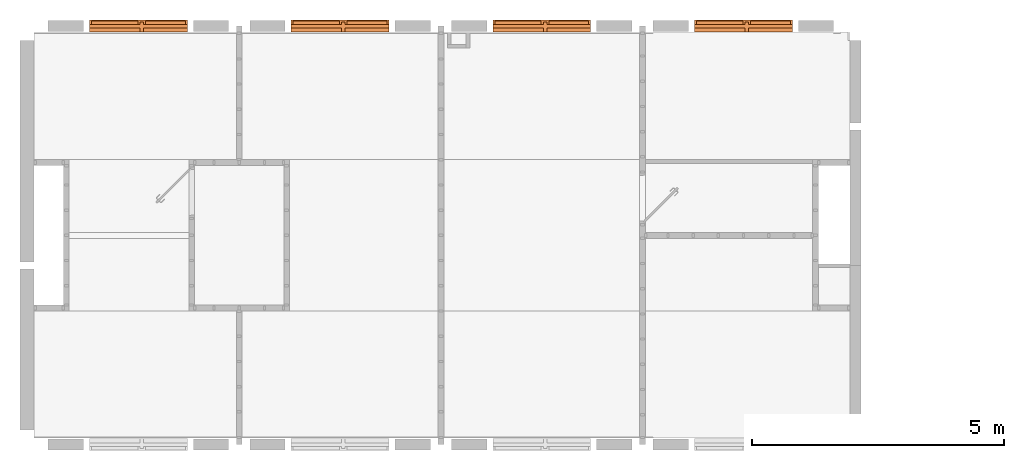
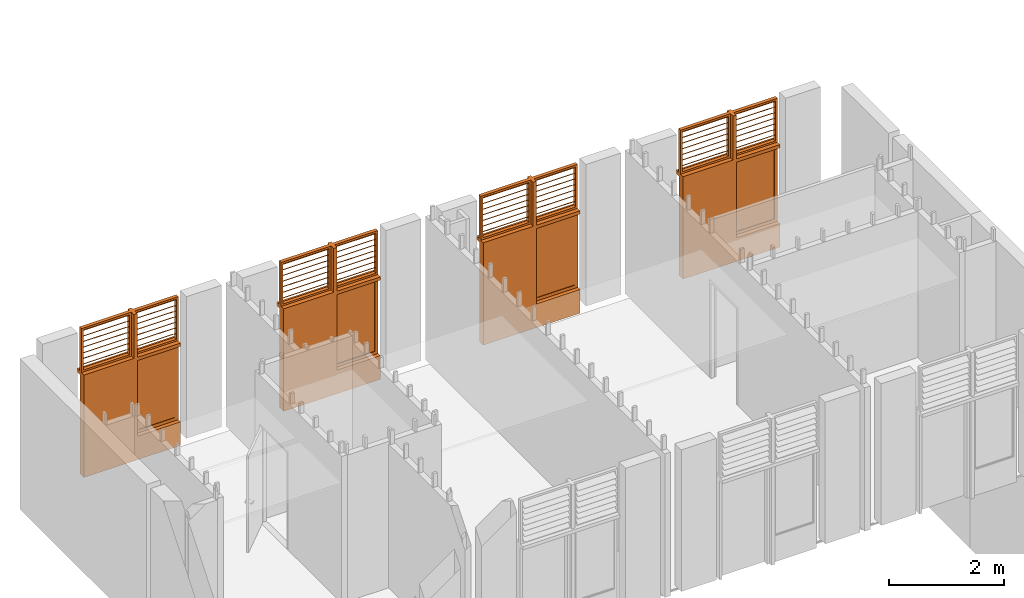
# One storey, part 16 of 20: 4 proxies.
"""IFC2X3 building model written with IfcOpenShell, lengths in metres."""

from ifc_helpers import new_model, entity, si_unit, converted_unit, derived_unit, direction, frame, origin, place, context, subcontext, project, spatial, faceted_brep, source, transform, mapped, material, material_list, type_object, type_shapes, element, save


model = new_model("IFC2X3")

# Units and contexts
model_context = context("Model", 3, precision=1e-05, world=origin(), true_north=direction((6.12303176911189e-17, 1.0)))
body_context = subcontext(model_context, "Body", "Model", "MODEL_VIEW")
ifc_project = project(units=[si_unit("LENGTHUNIT", "METRE"), si_unit("AREAUNIT", "SQUARE_METRE"), si_unit("VOLUMEUNIT", "CUBIC_METRE"), converted_unit("PLANEANGLEUNIT", "DEGREE", entity("IfcRatioMeasure", 0.0174532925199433), si_unit("PLANEANGLEUNIT", "RADIAN"), dimensions=[0, 0, 0, 0, 0, 0, 0]), si_unit("MASSUNIT", "GRAM", prefix="KILO"), derived_unit("MASSDENSITYUNIT", [(si_unit("MASSUNIT", "GRAM", prefix="KILO"), 1), (si_unit("LENGTHUNIT", "METRE"), -3)]), si_unit("TIMEUNIT", "SECOND"), si_unit("FREQUENCYUNIT", "HERTZ"), si_unit("THERMODYNAMICTEMPERATUREUNIT", "DEGREE_CELSIUS"), derived_unit("THERMALTRANSMITTANCEUNIT", [(si_unit("MASSUNIT", "GRAM", prefix="KILO"), 1), (si_unit("THERMODYNAMICTEMPERATUREUNIT", "KELVIN"), -1), (si_unit("TIMEUNIT", "SECOND"), -3)]), derived_unit("VOLUMETRICFLOWRATEUNIT", [(si_unit("LENGTHUNIT", "METRE"), 3), (si_unit("TIMEUNIT", "SECOND"), -1)]), si_unit("ELECTRICCURRENTUNIT", "AMPERE"), si_unit("ELECTRICVOLTAGEUNIT", "VOLT"), si_unit("POWERUNIT", "WATT"), si_unit("FORCEUNIT", "NEWTON", prefix="KILO"), si_unit("ILLUMINANCEUNIT", "LUX"), si_unit("LUMINOUSFLUXUNIT", "LUMEN"), si_unit("LUMINOUSINTENSITYUNIT", "CANDELA"), derived_unit("USERDEFINED", [(si_unit("MASSUNIT", "GRAM", prefix="KILO"), -1), (si_unit("LENGTHUNIT", "METRE"), -2), (si_unit("TIMEUNIT", "SECOND"), 3), (si_unit("LUMINOUSFLUXUNIT", "LUMEN"), 1)]), derived_unit("LINEARVELOCITYUNIT", [(si_unit("LENGTHUNIT", "METRE"), 1), (si_unit("TIMEUNIT", "SECOND"), -1)]), si_unit("PRESSUREUNIT", "PASCAL"), derived_unit("USERDEFINED", [(si_unit("LENGTHUNIT", "METRE"), -2), (si_unit("MASSUNIT", "GRAM", prefix="KILO"), 1), (si_unit("TIMEUNIT", "SECOND"), -2)])], contexts=[model_context])

# Site, building, storey
site_placement = place(None, origin())
site = spatial("IfcSite", under=ifc_project, at=site_placement, Name="Surface", CompositionType="ELEMENT")
building_placement = place(site_placement, origin())
building = spatial("IfcBuilding", under=site, at=building_placement, Name="ExPREF", CompositionType="ELEMENT")
storey_placement = place(building_placement, frame((0.0, 0.0, 4.27)))
storey = spatial("IfcBuildingStorey", under=building, at=storey_placement, Name="R+1", CompositionType="ELEMENT", Elevation=4.27)

# Proxies
ifc_material_1 = material(Name="AA-Aluminium")
ifc_material_2 = material(Name="AA-vitrage")
ifc_material_3 = material(Name="AA-bois menuiseries")
ifc_material_list_1 = material_list([ifc_material_1, ifc_material_2, ifc_material_3])
ifc_material_list_2 = material_list([ifc_material_1, ifc_material_2, ifc_material_3])
building_element_proxy_type = type_object("IfcBuildingElementProxyType", Name="R+2 porte + fenetre", PredefinedType="NOTDEFINED", material=ifc_material_list_2)
shared_shape = source(origin(), body_context, "Body", "Brep", [
    faceted_brep([(0.139999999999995, 0.113917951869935, 3.02140538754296), (0.139999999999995, 0.0970656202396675, 3.03320551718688), (0.139999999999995, 0.101483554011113, 3.03951498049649), (0.139999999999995, 0.11833588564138, 3.02771485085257), (0.930000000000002, 0.113917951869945, 3.02140538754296), (0.930000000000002, 0.118335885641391, 3.02771485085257), (0.930000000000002, 0.101483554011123, 3.03951498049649), (0.930000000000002, 0.0970656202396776, 3.03320551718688)], [[[0, 1, 2, 3]], [[4, 5, 6, 7]], [[1, 0, 4, 7]], [[2, 1, 7, 6]], [[3, 2, 6, 5]], [[0, 3, 5, 4]]]),
    faceted_brep([(0.139999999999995, 0.114720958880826, 3.02255220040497), (0.139999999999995, 0.117588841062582, 3.02664796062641), (0.139999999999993, 0.223609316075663, 2.95241162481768), (0.139999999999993, 0.220741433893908, 2.94831586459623), (0.930000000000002, 0.114720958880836, 3.02255220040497), (0.93, 0.220741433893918, 2.94831586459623), (0.93, 0.223609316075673, 2.95241162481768), (0.930000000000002, 0.117588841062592, 3.02664796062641)], [[[0, 1, 2, 3]], [[4, 5, 6, 7]], [[1, 0, 4, 7]], [[2, 1, 7, 6]], [[3, 2, 6, 5]], [[0, 3, 5, 4]]]),
    faceted_brep([(-0.930000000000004, 0.113917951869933, 3.02140538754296), (-0.930000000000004, 0.097065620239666, 3.03320551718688), (-0.930000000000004, 0.101483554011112, 3.03951498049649), (-0.930000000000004, 0.118335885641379, 3.02771485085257), (-0.00999999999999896, 0.113917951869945, 3.02140538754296), (-0.00999999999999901, 0.118335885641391, 3.02771485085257), (-0.0099999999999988, 0.101483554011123, 3.03951498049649), (-0.00999999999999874, 0.0970656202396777, 3.03320551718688)], [[[0, 1, 2, 3]], [[4, 5, 6, 7]], [[1, 0, 4, 7]], [[2, 1, 7, 6]], [[3, 2, 6, 5]], [[0, 3, 5, 4]]]),
    faceted_brep([(-0.930000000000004, 0.114720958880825, 3.02255220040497), (-0.930000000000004, 0.11758884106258, 3.02664796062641), (-0.930000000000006, 0.223609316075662, 2.95241162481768), (-0.930000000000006, 0.220741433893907, 2.94831586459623), (-0.00999999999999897, 0.114720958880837, 3.02255220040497), (-0.0100000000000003, 0.220741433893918, 2.94831586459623), (-0.0100000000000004, 0.223609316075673, 2.95241162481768), (-0.009999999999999, 0.117588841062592, 3.02664796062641)], [[[0, 1, 2, 3]], [[4, 5, 6, 7]], [[1, 0, 4, 7]], [[2, 1, 7, 6]], [[3, 2, 6, 5]], [[0, 3, 5, 4]]]),
    faceted_brep([(0.139999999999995, 0.113917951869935, 2.90240538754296), (0.139999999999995, 0.0970656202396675, 2.91420551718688), (0.139999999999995, 0.101483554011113, 2.92051498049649), (0.139999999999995, 0.11833588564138, 2.90871485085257), (0.930000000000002, 0.113917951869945, 2.90240538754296), (0.930000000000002, 0.118335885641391, 2.90871485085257), (0.930000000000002, 0.101483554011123, 2.92051498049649), (0.930000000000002, 0.0970656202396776, 2.91420551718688)], [[[0, 1, 2, 3]], [[4, 5, 6, 7]], [[1, 0, 4, 7]], [[2, 1, 7, 6]], [[3, 2, 6, 5]], [[0, 3, 5, 4]]]),
    faceted_brep([(0.139999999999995, 0.114720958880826, 2.90355220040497), (0.139999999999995, 0.117588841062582, 2.90764796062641), (0.139999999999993, 0.223609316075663, 2.83341162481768), (0.139999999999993, 0.220741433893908, 2.82931586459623), (0.930000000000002, 0.114720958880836, 2.90355220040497), (0.93, 0.220741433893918, 2.82931586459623), (0.93, 0.223609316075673, 2.83341162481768), (0.930000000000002, 0.117588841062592, 2.90764796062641)], [[[0, 1, 2, 3]], [[4, 5, 6, 7]], [[1, 0, 4, 7]], [[2, 1, 7, 6]], [[3, 2, 6, 5]], [[0, 3, 5, 4]]]),
    faceted_brep([(-0.930000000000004, 0.113917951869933, 2.90240538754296), (-0.930000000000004, 0.097065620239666, 2.91420551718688), (-0.930000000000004, 0.101483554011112, 2.92051498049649), (-0.930000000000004, 0.118335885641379, 2.90871485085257), (-0.00999999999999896, 0.113917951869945, 2.90240538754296), (-0.00999999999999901, 0.118335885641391, 2.90871485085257), (-0.0099999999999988, 0.101483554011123, 2.92051498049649), (-0.00999999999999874, 0.0970656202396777, 2.91420551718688)], [[[0, 1, 2, 3]], [[4, 5, 6, 7]], [[1, 0, 4, 7]], [[2, 1, 7, 6]], [[3, 2, 6, 5]], [[0, 3, 5, 4]]]),
    faceted_brep([(-0.930000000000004, 0.114720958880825, 2.90355220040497), (-0.930000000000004, 0.11758884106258, 2.90764796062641), (-0.930000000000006, 0.223609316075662, 2.83341162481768), (-0.930000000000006, 0.220741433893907, 2.82931586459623), (-0.00999999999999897, 0.114720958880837, 2.90355220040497), (-0.0100000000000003, 0.220741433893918, 2.82931586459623), (-0.0100000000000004, 0.223609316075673, 2.83341162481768), (-0.009999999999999, 0.117588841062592, 2.90764796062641)], [[[0, 1, 2, 3]], [[4, 5, 6, 7]], [[1, 0, 4, 7]], [[2, 1, 7, 6]], [[3, 2, 6, 5]], [[0, 3, 5, 4]]]),
    faceted_brep([(0.139999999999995, 0.113917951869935, 2.78340538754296), (0.139999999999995, 0.0970656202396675, 2.79520551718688), (0.139999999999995, 0.101483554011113, 2.80151498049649), (0.139999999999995, 0.11833588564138, 2.78971485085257), (0.930000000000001, 0.113917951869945, 2.78340538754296), (0.930000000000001, 0.118335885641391, 2.78971485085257), (0.930000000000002, 0.101483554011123, 2.80151498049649), (0.930000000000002, 0.0970656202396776, 2.79520551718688)], [[[0, 1, 2, 3]], [[4, 5, 6, 7]], [[1, 0, 4, 7]], [[2, 1, 7, 6]], [[3, 2, 6, 5]], [[0, 3, 5, 4]]]),
    faceted_brep([(0.139999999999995, 0.114720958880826, 2.78455220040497), (0.139999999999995, 0.117588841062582, 2.78864796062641), (0.139999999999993, 0.223609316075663, 2.71441162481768), (0.139999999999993, 0.220741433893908, 2.71031586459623), (0.930000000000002, 0.114720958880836, 2.78455220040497), (0.93, 0.220741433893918, 2.71031586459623), (0.93, 0.223609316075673, 2.71441162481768), (0.930000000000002, 0.117588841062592, 2.78864796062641)], [[[0, 1, 2, 3]], [[4, 5, 6, 7]], [[1, 0, 4, 7]], [[2, 1, 7, 6]], [[3, 2, 6, 5]], [[0, 3, 5, 4]]]),
    faceted_brep([(-0.930000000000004, 0.113917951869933, 2.78340538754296), (-0.930000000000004, 0.097065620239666, 2.79520551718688), (-0.930000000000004, 0.101483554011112, 2.80151498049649), (-0.930000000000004, 0.118335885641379, 2.78971485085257), (-0.00999999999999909, 0.113917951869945, 2.78340538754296), (-0.00999999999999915, 0.118335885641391, 2.78971485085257), (-0.00999999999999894, 0.101483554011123, 2.80151498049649), (-0.00999999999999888, 0.0970656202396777, 2.79520551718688)], [[[0, 1, 2, 3]], [[4, 5, 6, 7]], [[1, 0, 4, 7]], [[2, 1, 7, 6]], [[3, 2, 6, 5]], [[0, 3, 5, 4]]]),
    faceted_brep([(-0.930000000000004, 0.114720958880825, 2.78455220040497), (-0.930000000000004, 0.11758884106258, 2.78864796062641), (-0.930000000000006, 0.223609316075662, 2.71441162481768), (-0.930000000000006, 0.220741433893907, 2.71031586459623), (-0.0099999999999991, 0.114720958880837, 2.78455220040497), (-0.0100000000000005, 0.220741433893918, 2.71031586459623), (-0.0100000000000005, 0.223609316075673, 2.71441162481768), (-0.00999999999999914, 0.117588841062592, 2.78864796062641)], [[[0, 1, 2, 3]], [[4, 5, 6, 7]], [[1, 0, 4, 7]], [[2, 1, 7, 6]], [[3, 2, 6, 5]], [[0, 3, 5, 4]]]),
    faceted_brep([(-0.930000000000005, 0.113917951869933, 2.66440538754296), (-0.930000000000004, 0.097065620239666, 2.67620551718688), (-0.930000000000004, 0.101483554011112, 2.68251498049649), (-0.930000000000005, 0.118335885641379, 2.67071485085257), (-0.00999999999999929, 0.113917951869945, 2.66440538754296), (-0.00999999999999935, 0.118335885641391, 2.67071485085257), (-0.00999999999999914, 0.101483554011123, 2.68251498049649), (-0.00999999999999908, 0.0970656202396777, 2.67620551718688)], [[[0, 1, 2, 3]], [[4, 5, 6, 7]], [[1, 0, 4, 7]], [[2, 1, 7, 6]], [[3, 2, 6, 5]], [[0, 3, 5, 4]]]),
    faceted_brep([(-0.930000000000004, 0.114720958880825, 2.66555220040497), (-0.930000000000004, 0.11758884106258, 2.66964796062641), (-0.930000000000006, 0.223609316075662, 2.59541162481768), (-0.930000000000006, 0.220741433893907, 2.59131586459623), (-0.0099999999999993, 0.114720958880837, 2.66555220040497), (-0.0100000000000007, 0.220741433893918, 2.59131586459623), (-0.0100000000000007, 0.223609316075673, 2.59541162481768), (-0.00999999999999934, 0.117588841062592, 2.66964796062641)], [[[0, 1, 2, 3]], [[4, 5, 6, 7]], [[1, 0, 4, 7]], [[2, 1, 7, 6]], [[3, 2, 6, 5]], [[0, 3, 5, 4]]]),
    faceted_brep([(-0.930000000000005, 0.113917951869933, 2.54540538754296), (-0.930000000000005, 0.097065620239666, 2.55720551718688), (-0.930000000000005, 0.101483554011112, 2.56351498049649), (-0.930000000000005, 0.118335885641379, 2.55171485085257), (-0.0099999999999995, 0.113917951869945, 2.54540538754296), (-0.00999999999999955, 0.118335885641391, 2.55171485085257), (-0.00999999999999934, 0.101483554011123, 2.56351498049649), (-0.00999999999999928, 0.0970656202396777, 2.55720551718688)], [[[0, 1, 2, 3]], [[4, 5, 6, 7]], [[1, 0, 4, 7]], [[2, 1, 7, 6]], [[3, 2, 6, 5]], [[0, 3, 5, 4]]]),
    faceted_brep([(-0.930000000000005, 0.114720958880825, 2.54655220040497), (-0.930000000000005, 0.11758884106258, 2.55064796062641), (-0.930000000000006, 0.223609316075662, 2.47641162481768), (-0.930000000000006, 0.220741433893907, 2.47231586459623), (-0.00999999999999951, 0.114720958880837, 2.54655220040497), (-0.0100000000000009, 0.220741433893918, 2.47231586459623), (-0.0100000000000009, 0.223609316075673, 2.47641162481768), (-0.00999999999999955, 0.117588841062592, 2.55064796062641)], [[[0, 1, 2, 3]], [[4, 5, 6, 7]], [[1, 0, 4, 7]], [[2, 1, 7, 6]], [[3, 2, 6, 5]], [[0, 3, 5, 4]]]),
    faceted_brep([(0.139999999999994, 0.113917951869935, 2.66440538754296), (0.139999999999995, 0.0970656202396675, 2.67620551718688), (0.139999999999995, 0.101483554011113, 2.68251498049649), (0.139999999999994, 0.11833588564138, 2.67071485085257), (0.930000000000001, 0.113917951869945, 2.66440538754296), (0.930000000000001, 0.118335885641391, 2.67071485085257), (0.930000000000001, 0.101483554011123, 2.68251498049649), (0.930000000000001, 0.0970656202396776, 2.67620551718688)], [[[0, 1, 2, 3]], [[4, 5, 6, 7]], [[1, 0, 4, 7]], [[2, 1, 7, 6]], [[3, 2, 6, 5]], [[0, 3, 5, 4]]]),
    faceted_brep([(0.139999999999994, 0.114720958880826, 2.66555220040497), (0.139999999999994, 0.117588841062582, 2.66964796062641), (0.139999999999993, 0.223609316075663, 2.59541162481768), (0.139999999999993, 0.220741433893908, 2.59131586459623), (0.930000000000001, 0.114720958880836, 2.66555220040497), (0.93, 0.220741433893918, 2.59131586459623), (0.93, 0.223609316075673, 2.59541162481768), (0.930000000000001, 0.117588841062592, 2.66964796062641)], [[[0, 1, 2, 3]], [[4, 5, 6, 7]], [[1, 0, 4, 7]], [[2, 1, 7, 6]], [[3, 2, 6, 5]], [[0, 3, 5, 4]]]),
    faceted_brep([(0.139999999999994, 0.113917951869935, 2.54540538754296), (0.139999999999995, 0.0970656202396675, 2.55720551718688), (0.139999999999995, 0.101483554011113, 2.56351498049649), (0.139999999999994, 0.11833588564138, 2.55171485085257), (0.930000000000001, 0.113917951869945, 2.54540538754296), (0.930000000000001, 0.118335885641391, 2.55171485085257), (0.930000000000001, 0.101483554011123, 2.56351498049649), (0.930000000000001, 0.0970656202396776, 2.55720551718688)], [[[0, 1, 2, 3]], [[4, 5, 6, 7]], [[1, 0, 4, 7]], [[2, 1, 7, 6]], [[3, 2, 6, 5]], [[0, 3, 5, 4]]]),
    faceted_brep([(0.139999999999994, 0.114720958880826, 2.54655220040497), (0.139999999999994, 0.117588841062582, 2.55064796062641), (0.139999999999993, 0.223609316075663, 2.47641162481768), (0.139999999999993, 0.220741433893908, 2.47231586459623), (0.930000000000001, 0.114720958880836, 2.54655220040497), (0.93, 0.220741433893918, 2.47231586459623), (0.93, 0.223609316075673, 2.47641162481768), (0.930000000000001, 0.117588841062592, 2.55064796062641)], [[[0, 1, 2, 3]], [[4, 5, 6, 7]], [[1, 0, 4, 7]], [[2, 1, 7, 6]], [[3, 2, 6, 5]], [[0, 3, 5, 4]]]),
    faceted_brep([(0.139999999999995, 0.113917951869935, 2.42640538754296), (0.139999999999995, 0.0970656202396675, 2.43820551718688), (0.139999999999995, 0.101483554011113, 2.44451498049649), (0.139999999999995, 0.11833588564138, 2.43271485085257), (0.930000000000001, 0.113917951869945, 2.42640538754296), (0.930000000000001, 0.118335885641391, 2.43271485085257), (0.930000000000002, 0.101483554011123, 2.44451498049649), (0.930000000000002, 0.0970656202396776, 2.43820551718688)], [[[0, 1, 2, 3]], [[4, 5, 6, 7]], [[1, 0, 4, 7]], [[2, 1, 7, 6]], [[3, 2, 6, 5]], [[0, 3, 5, 4]]]),
    faceted_brep([(0.139999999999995, 0.114720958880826, 2.42755220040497), (0.139999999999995, 0.117588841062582, 2.43164796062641), (0.139999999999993, 0.223609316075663, 2.35741162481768), (0.139999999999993, 0.220741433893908, 2.35331586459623), (0.930000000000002, 0.114720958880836, 2.42755220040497), (0.93, 0.220741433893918, 2.35331586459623), (0.93, 0.223609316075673, 2.35741162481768), (0.930000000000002, 0.117588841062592, 2.43164796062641)], [[[0, 1, 2, 3]], [[4, 5, 6, 7]], [[1, 0, 4, 7]], [[2, 1, 7, 6]], [[3, 2, 6, 5]], [[0, 3, 5, 4]]]),
    faceted_brep([(0.139999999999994, 0.113917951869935, 2.30740538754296), (0.139999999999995, 0.0970656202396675, 2.31920551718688), (0.139999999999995, 0.101483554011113, 2.32551498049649), (0.139999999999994, 0.11833588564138, 2.31371485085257), (0.930000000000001, 0.113917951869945, 2.30740538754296), (0.930000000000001, 0.118335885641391, 2.31371485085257), (0.930000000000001, 0.101483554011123, 2.32551498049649), (0.930000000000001, 0.0970656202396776, 2.31920551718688)], [[[0, 1, 2, 3]], [[4, 5, 6, 7]], [[1, 0, 4, 7]], [[2, 1, 7, 6]], [[3, 2, 6, 5]], [[0, 3, 5, 4]]]),
    faceted_brep([(0.139999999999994, 0.114720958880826, 2.30855220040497), (0.139999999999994, 0.117588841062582, 2.31264796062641), (0.139999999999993, 0.223609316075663, 2.23841162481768), (0.139999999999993, 0.220741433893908, 2.23431586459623), (0.930000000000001, 0.114720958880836, 2.30855220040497), (0.93, 0.220741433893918, 2.23431586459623), (0.93, 0.223609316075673, 2.23841162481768), (0.930000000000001, 0.117588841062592, 2.31264796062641)], [[[0, 1, 2, 3]], [[4, 5, 6, 7]], [[1, 0, 4, 7]], [[2, 1, 7, 6]], [[3, 2, 6, 5]], [[0, 3, 5, 4]]]),
    faceted_brep([(-0.930000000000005, 0.113917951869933, 2.42640538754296), (-0.930000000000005, 0.097065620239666, 2.43820551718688), (-0.930000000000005, 0.101483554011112, 2.44451498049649), (-0.930000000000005, 0.118335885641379, 2.43271485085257), (-0.0099999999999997, 0.113917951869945, 2.42640538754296), (-0.00999999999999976, 0.118335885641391, 2.43271485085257), (-0.00999999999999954, 0.101483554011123, 2.44451498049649), (-0.00999999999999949, 0.0970656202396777, 2.43820551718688)], [[[0, 1, 2, 3]], [[4, 5, 6, 7]], [[1, 0, 4, 7]], [[2, 1, 7, 6]], [[3, 2, 6, 5]], [[0, 3, 5, 4]]]),
    faceted_brep([(-0.930000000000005, 0.114720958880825, 2.42755220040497), (-0.930000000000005, 0.11758884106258, 2.43164796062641), (-0.930000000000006, 0.223609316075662, 2.35741162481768), (-0.930000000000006, 0.220741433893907, 2.35331586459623), (-0.00999999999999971, 0.114720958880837, 2.42755220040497), (-0.0100000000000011, 0.220741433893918, 2.35331586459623), (-0.0100000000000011, 0.223609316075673, 2.35741162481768), (-0.00999999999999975, 0.117588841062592, 2.43164796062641)], [[[0, 1, 2, 3]], [[4, 5, 6, 7]], [[1, 0, 4, 7]], [[2, 1, 7, 6]], [[3, 2, 6, 5]], [[0, 3, 5, 4]]]),
    faceted_brep([(-0.930000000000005, 0.113917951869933, 2.30740538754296), (-0.930000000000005, 0.097065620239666, 2.31920551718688), (-0.930000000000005, 0.101483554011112, 2.32551498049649), (-0.930000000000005, 0.118335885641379, 2.31371485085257), (-0.0099999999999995, 0.113917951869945, 2.30740538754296), (-0.00999999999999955, 0.118335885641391, 2.31371485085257), (-0.00999999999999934, 0.101483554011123, 2.32551498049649), (-0.00999999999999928, 0.0970656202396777, 2.31920551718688)], [[[0, 1, 2, 3]], [[4, 5, 6, 7]], [[1, 0, 4, 7]], [[2, 1, 7, 6]], [[3, 2, 6, 5]], [[0, 3, 5, 4]]]),
    faceted_brep([(-0.930000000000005, 0.114720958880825, 2.30855220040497), (-0.930000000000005, 0.11758884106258, 2.31264796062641), (-0.930000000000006, 0.223609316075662, 2.23841162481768), (-0.930000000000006, 0.220741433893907, 2.23431586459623), (-0.00999999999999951, 0.114720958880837, 2.30855220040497), (-0.0100000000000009, 0.220741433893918, 2.23431586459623), (-0.0100000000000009, 0.223609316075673, 2.23841162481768), (-0.00999999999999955, 0.117588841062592, 2.31264796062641)], [[[0, 1, 2, 3]], [[4, 5, 6, 7]], [[1, 0, 4, 7]], [[2, 1, 7, 6]], [[3, 2, 6, 5]], [[0, 3, 5, 4]]]),
    faceted_brep([(0.904999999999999, 0.0900000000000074, 2.03499999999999), (0.164999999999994, 0.0900000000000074, 2.03499999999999), (0.164999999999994, 0.0900000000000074, 0.564999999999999), (0.904999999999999, 0.0900000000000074, 0.564999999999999), (0.904999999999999, 0.110000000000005, 2.03499999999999), (0.904999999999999, 0.110000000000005, 0.564999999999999), (0.164999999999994, 0.110000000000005, 0.564999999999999), (0.164999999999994, 0.110000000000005, 2.03499999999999)], [[[0, 1, 2, 3]], [[4, 5, 6, 7]], [[0, 4, 7, 1]], [[1, 7, 6, 2]], [[2, 6, 5, 3]], [[3, 5, 4, 0]]]),
    faceted_brep([(0.934999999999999, 0.0800000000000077, 2.065), (0.934999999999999, 0.0800000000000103, 0.534999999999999), (0.934999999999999, 0.120000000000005, 0.534999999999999), (0.934999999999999, 0.120000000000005, 2.065), (0.904999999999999, 0.120000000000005, 2.035), (0.904999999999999, 0.120000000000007, 0.564999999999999), (0.904999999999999, 0.0800000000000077, 0.564999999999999), (0.904999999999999, 0.0800000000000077, 2.03499999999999), (0.134999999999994, 0.0800000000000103, 0.534999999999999), (0.134999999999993, 0.120000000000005, 0.534999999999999), (0.164999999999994, 0.120000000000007, 0.564999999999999), (0.164999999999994, 0.0800000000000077, 0.564999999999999), (0.134999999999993, 0.0800000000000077, 2.065), (0.134999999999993, 0.120000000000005, 2.065), (0.164999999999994, 0.120000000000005, 2.035), (0.164999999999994, 0.0800000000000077, 2.03499999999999)], [[[0, 1, 2, 3]], [[4, 5, 6, 7]], [[1, 8, 9, 2]], [[5, 10, 11, 6]], [[8, 12, 13, 9]], [[10, 14, 15, 11]], [[3, 2, 9, 13], [5, 4, 14, 10]], [[12, 0, 3, 13]], [[1, 0, 12, 8], [7, 6, 11, 15]], [[14, 4, 7, 15]]]),
    faceted_brep([(0.969999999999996, 0.140000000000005, 0.500000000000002), (0.969999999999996, 0.139999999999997, 2.09999999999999), (0.969999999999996, 0.080000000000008, 2.09999999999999), (0.969999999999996, 0.080000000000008, 0.500000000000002), (0.919999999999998, 0.120000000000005, 0.549999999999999), (0.919999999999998, 0.119999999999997, 2.05), (0.919999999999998, 0.140000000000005, 2.04999999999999), (0.919999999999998, 0.140000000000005, 0.549999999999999), (0.934999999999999, 0.0800000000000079, 0.534999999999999), (0.934999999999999, 0.08, 2.065), (0.934999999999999, 0.120000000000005, 2.065), (0.934999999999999, 0.120000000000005, 0.534999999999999), (0.099999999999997, 0.139999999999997, 2.09999999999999), (0.0999999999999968, 0.080000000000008, 2.09999999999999), (0.149999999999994, 0.119999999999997, 2.05), (0.149999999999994, 0.140000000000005, 2.04999999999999), (0.134999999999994, 0.08, 2.065), (0.134999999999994, 0.120000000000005, 2.065), (0.0999999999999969, 0.140000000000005, 0.500000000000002), (0.0999999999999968, 0.080000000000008, 0.500000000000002), (0.149999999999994, 0.120000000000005, 0.549999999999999), (0.149999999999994, 0.140000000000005, 0.549999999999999), (0.134999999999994, 0.0800000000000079, 0.534999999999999), (0.134999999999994, 0.120000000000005, 0.534999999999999)], [[[0, 1, 2, 3]], [[4, 5, 6, 7]], [[8, 9, 10, 11]], [[1, 12, 13, 2]], [[5, 14, 15, 6]], [[9, 16, 17, 10]], [[12, 18, 19, 13]], [[14, 20, 21, 15]], [[16, 22, 23, 17]], [[3, 2, 13, 19], [9, 8, 22, 16]], [[18, 0, 3, 19]], [[1, 0, 18, 12], [7, 6, 15, 21]], [[20, 4, 7, 21]], [[5, 4, 20, 14], [11, 10, 17, 23]], [[22, 8, 11, 23]]], outer=[[True], [True], [True], [True], [True], [True], [True], [True], [True], [True, False], [True], [True, False], [True], [False, True], [True]]),
    faceted_brep([(-0.97, 0.155, 2.17), (-0.97, 0.155, 3.10000000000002), (0.0299999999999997, 0.155, 3.10000000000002), (0.0299999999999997, 0.155, 2.17), (-0.930000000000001, 0.155, 2.21), (-0.0100000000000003, 0.155, 2.21), (-0.0100000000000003, 0.155, 3.06000000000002), (-0.930000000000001, 0.155, 3.06000000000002), (-0.930000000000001, 0.085000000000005, 2.21), (-0.930000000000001, 0.085000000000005, 3.06000000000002), (-0.0100000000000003, 0.085000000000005, 3.06000000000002), (-0.0100000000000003, 0.085000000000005, 2.21), (-0.97, 0.085000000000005, 2.17), (0.0299999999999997, 0.085000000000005, 2.17), (0.0299999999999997, 0.085000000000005, 3.10000000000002), (-0.97, 0.085000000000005, 3.10000000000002)], [[[0, 1, 2, 3], [4, 5, 6, 7]], [[8, 9, 10, 11], [12, 13, 14, 15]], [[3, 13, 12, 0]], [[4, 8, 11, 5]], [[0, 12, 15, 1]], [[7, 9, 8, 4]], [[2, 14, 13, 3]], [[5, 11, 10, 6]], [[1, 15, 14, 2]], [[6, 10, 9, 7]]], outer=[[True, False], [False, True], [True], [True], [True], [True], [True], [True], [True], [True]]),
    faceted_brep([(0.0999999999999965, 0.155, 2.16999999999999), (0.0999999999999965, 0.155, 3.10000000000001), (0.970000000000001, 0.155, 3.10000000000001), (0.970000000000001, 0.155, 2.16999999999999), (0.139999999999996, 0.155, 2.20999999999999), (0.930000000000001, 0.155, 2.20999999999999), (0.930000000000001, 0.155, 3.06000000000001), (0.139999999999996, 0.155, 3.06000000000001), (0.139999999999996, 0.085000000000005, 2.20999999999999), (0.139999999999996, 0.085000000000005, 3.06000000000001), (0.930000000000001, 0.085000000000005, 3.06000000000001), (0.930000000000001, 0.085000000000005, 2.20999999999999), (0.0999999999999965, 0.085000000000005, 2.16999999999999), (0.970000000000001, 0.085000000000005, 2.16999999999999), (0.970000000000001, 0.085000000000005, 3.10000000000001), (0.0999999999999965, 0.085000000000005, 3.10000000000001)], [[[0, 1, 2, 3], [4, 5, 6, 7]], [[8, 9, 10, 11], [12, 13, 14, 15]], [[3, 13, 12, 0]], [[2, 14, 13, 3]], [[5, 11, 10, 6]], [[4, 8, 11, 5]], [[0, 12, 15, 1]], [[7, 9, 8, 4]], [[1, 15, 14, 2]], [[6, 10, 9, 7]]], outer=[[True, False], [False, True], [True], [True], [True], [True], [True], [True], [True], [True]]),
    faceted_brep([(0.0999999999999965, 0.2, 3.10000000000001), (0.0999999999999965, 0.2, 2.17), (0.0299999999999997, 0.2, 2.17), (0.0299999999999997, 0.2, 3.10000000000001), (0.0299999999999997, 0.0, 3.10000000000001), (0.0999999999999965, 0.0, 3.10000000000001), (0.0999999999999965, 0.0, 2.17), (0.0299999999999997, 0.0, 2.17)], [[[0, 1, 2, 3]], [[3, 4, 5, 0]], [[0, 5, 6, 1]], [[2, 7, 4, 3]], [[1, 6, 7, 2]], [[5, 4, 7, 6]]]),
    faceted_brep([(0.0299999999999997, 0.0, 2.1), (0.0299999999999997, 0.0, 0.0), (0.0999999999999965, 0.0, 0.0), (0.0999999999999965, 0.0, 2.1), (0.0299999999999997, 0.2, 0.0), (0.0299999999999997, 0.2, 2.1), (0.0999999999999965, 0.2, 0.0), (0.0999999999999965, 0.2, 2.1)], [[[0, 1, 2, 3]], [[4, 1, 0, 5]], [[6, 2, 1, 4]], [[7, 3, 2, 6]], [[5, 0, 3, 7]], [[5, 7, 6, 4]]]),
    faceted_brep([(-0.0050000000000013, 0.0, 2.065), (-0.0050000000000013, 0.0400000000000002, 2.065), (-0.935000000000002, 0.0400000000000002, 2.065), (-0.935000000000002, 0.0, 2.065), (-0.0050000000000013, 0.0, 0.0), (-0.935000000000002, 0.0, 0.0), (-0.935000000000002, 0.0400000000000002, 0.0), (-0.0050000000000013, 0.0400000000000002, 0.0)], [[[0, 1, 2, 3]], [[4, 5, 6, 7]], [[3, 5, 4, 0]], [[2, 6, 5, 3]], [[1, 7, 6, 2]], [[0, 4, 7, 1]]]),
    faceted_brep([(-0.970000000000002, 0.14, 0.0), (-0.920000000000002, 0.14, 0.0), (-0.920000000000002, 0.0400000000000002, 0.0), (-0.935000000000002, 0.0400000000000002, 0.0), (-0.935000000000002, 0.0, 0.0), (-0.970000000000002, 0.0, 0.0), (-0.969999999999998, 0.0, 2.1), (-0.969999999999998, 0.14, 2.1), (-0.934999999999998, 0.0, 2.065), (-0.004999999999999, 0.0, 2.065), (-0.00500000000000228, 0.0, 0.0), (0.0299999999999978, 0.0, 0.0), (0.0300000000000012, 0.0, 2.1), (-0.934999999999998, 0.0400000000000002, 2.065), (0.0300000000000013, 0.14, 2.1), (0.0299999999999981, 0.14, 0.0), (-0.0200000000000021, 0.140000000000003, 0.0), (-0.0199999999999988, 0.140000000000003, 2.05), (-0.919999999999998, 0.14, 2.05), (-0.004999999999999, 0.0400000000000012, 2.065), (-0.00500000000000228, 0.0400000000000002, 0.0), (-0.0200000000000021, 0.0400000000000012, 0.0), (-0.919999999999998, 0.0400000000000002, 2.05), (-0.0199999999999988, 0.0400000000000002, 2.05)], [[[0, 1, 2, 3, 4, 5]], [[5, 6, 7, 0]], [[4, 8, 9, 10, 11, 12, 6, 5]], [[3, 13, 8, 4]], [[0, 7, 14, 15, 16, 17, 18, 1]], [[6, 12, 14, 7]], [[13, 19, 9, 8]], [[15, 11, 10, 20, 21, 16]], [[2, 22, 23, 21, 20, 19, 13, 3]], [[1, 18, 22, 2]], [[18, 17, 23, 22]], [[12, 11, 15, 14]], [[19, 20, 10, 9]], [[17, 16, 21, 23]]]),
    faceted_brep([(0.970000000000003, 0.140000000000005, 0.0), (0.0999999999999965, 0.140000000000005, 0.0), (0.0999999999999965, 0.140000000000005, 0.500000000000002), (0.970000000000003, 0.140000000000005, 0.500000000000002), (0.970000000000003, 0.0, 0.0), (0.970000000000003, 0.0, 0.500000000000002), (0.0999999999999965, 0.0, 0.500000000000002), (0.0999999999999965, 0.0, 0.0)], [[[0, 1, 2, 3]], [[4, 5, 6, 7]], [[3, 5, 4, 0]], [[2, 6, 5, 3]], [[1, 7, 6, 2]], [[0, 4, 7, 1]]]),
    faceted_brep([(0.97, 0.24, 2.09999999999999), (-0.97, 0.24, 2.1), (-0.97, 0.24, 2.17), (0.970000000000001, 0.24, 2.16999999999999), (0.97, 0.0, 2.09999999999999), (0.97, 0.0, 2.16999999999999), (-0.970000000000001, 0.0, 2.17), (-0.97, 0.0, 2.1)], [[[0, 1, 2, 3]], [[4, 5, 6, 7]], [[3, 5, 4, 0]], [[1, 7, 6, 2]], [[0, 4, 7, 1]], [[2, 6, 5, 3]]]),
])
type_shapes(building_element_proxy_type, [shared_shape])
proxy_1_placement = place(storey_placement, frame((39.4897436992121, -185.17648794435, 0.0)))
element("IfcBuildingElementProxy", 1, at=proxy_1_placement, inside=storey, type_object=building_element_proxy_type, material=ifc_material_list_1, Name="R+1 porte + fenetre:R+2 porte + fenetre", ObjectType="R+2 porte + fenetre", context=body_context, shape_type="MappedRepresentation", body=[
    mapped(shared_shape, transform((0.0, 0.0, 0.0), scale=1.0)),
])
ifc_material_list_3 = material_list([ifc_material_1, ifc_material_2, ifc_material_3])
proxy_2_placement = place(storey_placement, frame((35.4897436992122, -185.17648794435, 0.0)))
element("IfcBuildingElementProxy", 2, at=proxy_2_placement, inside=storey, type_object=building_element_proxy_type, material=ifc_material_list_3, Name="R+1 porte + fenetre:R+2 porte + fenetre", ObjectType="R+2 porte + fenetre", context=body_context, shape_type="MappedRepresentation", body=[
    mapped(shared_shape, transform((0.0, 0.0, 0.0), scale=1.0)),
])
ifc_material_list_4 = material_list([ifc_material_1, ifc_material_2, ifc_material_3])
proxy_3_placement = place(storey_placement, frame((31.4897436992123, -185.17648794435, 0.0)))
element("IfcBuildingElementProxy", 3, at=proxy_3_placement, inside=storey, type_object=building_element_proxy_type, material=ifc_material_list_4, Name="R+1 porte + fenetre:R+2 porte + fenetre", ObjectType="R+2 porte + fenetre", context=body_context, shape_type="MappedRepresentation", body=[
    mapped(shared_shape, transform((0.0, 0.0, 0.0), scale=1.0)),
])
ifc_material_list_5 = material_list([ifc_material_1, ifc_material_2, ifc_material_3])
proxy_4_placement = place(storey_placement, frame((27.4897436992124, -185.17648794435, 0.0)))
element("IfcBuildingElementProxy", 4, at=proxy_4_placement, inside=storey, type_object=building_element_proxy_type, material=ifc_material_list_5, Name="R+1 porte + fenetre:R+2 porte + fenetre", ObjectType="R+2 porte + fenetre", context=body_context, shape_type="MappedRepresentation", body=[
    mapped(shared_shape, transform((0.0, 0.0, 0.0), scale=1.0)),
])

save(model, "model.ifc")
